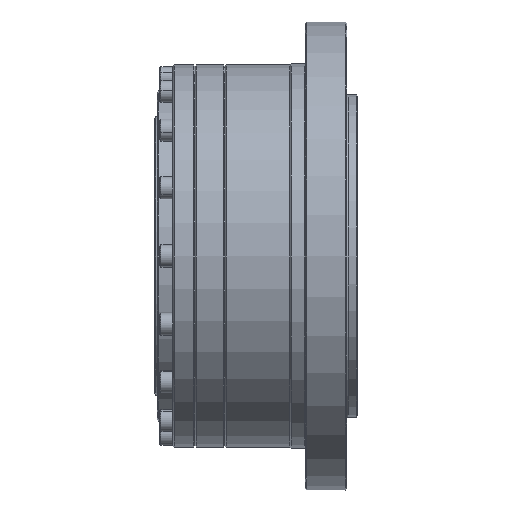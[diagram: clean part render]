
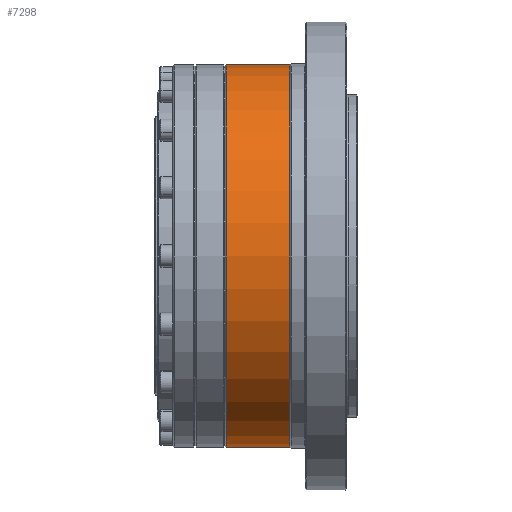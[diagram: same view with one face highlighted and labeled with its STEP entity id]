
A CAD part, front view. The second image highlights one B-rep face of the part: STEP entity #7298.
In plain terms, the highlighted cylindrical face has radius 73.5 mm (diameter 147 mm), a partial arc.
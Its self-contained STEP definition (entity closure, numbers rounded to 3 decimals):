
#171 = DIRECTION ( 'NONE',  ( 1., 0., 0. ) ) ;
#782 = LINE ( 'NONE', #15147, #18159 ) ;
#1699 = CARTESIAN_POINT ( 'NONE',  ( -30.095, 0.744, 253.5 ) ) ;
#2773 = CARTESIAN_POINT ( 'NONE',  ( -30.095, 0.744, 106.5 ) ) ;
#2976 = EDGE_LOOP ( 'NONE', ( #16588, #7048, #18321, #9394 ) ) ;
#4063 = EDGE_CURVE ( 'NONE', #20453, #21535, #13560, .T. ) ;
#4147 = CARTESIAN_POINT ( 'NONE',  ( 39.971, 0.744, 253.5 ) ) ;
#4237 = DIRECTION ( 'NONE',  ( 1., 0., 0. ) ) ;
#4670 = DIRECTION ( 'NONE',  ( 1., 0., 0. ) ) ;
#6906 = AXIS2_PLACEMENT_3D ( 'NONE', #8763, #171, #7447 ) ;
#7048 = ORIENTED_EDGE ( 'NONE', *, *, #4063, .T. ) ;
#7298 = ADVANCED_FACE ( 'NONE', ( #16900 ), #7970, .T. ) ;
#7447 = DIRECTION ( 'NONE',  ( 0., 0., -1. ) ) ;
#7683 = VECTOR ( 'NONE', #4670, 1000. ) ;
#7755 = EDGE_CURVE ( 'NONE', #20453, #13517, #16631, .T. ) ;
#7970 = CYLINDRICAL_SURFACE ( 'NONE', #6906, 73.5 ) ;
#8763 = CARTESIAN_POINT ( 'NONE',  ( 39.971, 0.744, 180. ) ) ;
#9394 = ORIENTED_EDGE ( 'NONE', *, *, #14214, .F. ) ;
#9513 = CIRCLE ( 'NONE', #11823, 73.5 ) ;
#9681 = VERTEX_POINT ( 'NONE', #13754 ) ;
#11823 = AXIS2_PLACEMENT_3D ( 'NONE', #14287, #4237, #16035 ) ;
#11866 = DIRECTION ( 'NONE',  ( 1., 0., 0. ) ) ;
#12763 = AXIS2_PLACEMENT_3D ( 'NONE', #20557, #14178, #17827 ) ;
#13517 = VERTEX_POINT ( 'NONE', #15895 ) ;
#13560 = CIRCLE ( 'NONE', #12763, 73.5 ) ;
#13754 = CARTESIAN_POINT ( 'NONE',  ( -5.595, 0.744, 106.5 ) ) ;
#14178 = DIRECTION ( 'NONE',  ( 1., 0., 0. ) ) ;
#14214 = EDGE_CURVE ( 'NONE', #13517, #9681, #9513, .T. ) ;
#14287 = CARTESIAN_POINT ( 'NONE',  ( -5.595, 0.744, 180. ) ) ;
#14621 = EDGE_CURVE ( 'NONE', #21535, #9681, #782, .T. ) ;
#15147 = CARTESIAN_POINT ( 'NONE',  ( 39.971, 0.744, 106.5 ) ) ;
#15895 = CARTESIAN_POINT ( 'NONE',  ( -5.595, 0.744, 253.5 ) ) ;
#16035 = DIRECTION ( 'NONE',  ( 0., 0., -1. ) ) ;
#16588 = ORIENTED_EDGE ( 'NONE', *, *, #7755, .F. ) ;
#16631 = LINE ( 'NONE', #4147, #7683 ) ;
#16900 = FACE_OUTER_BOUND ( 'NONE', #2976, .T. ) ;
#17827 = DIRECTION ( 'NONE',  ( 0., 0., -1. ) ) ;
#18159 = VECTOR ( 'NONE', #11866, 1000. ) ;
#18321 = ORIENTED_EDGE ( 'NONE', *, *, #14621, .T. ) ;
#20453 = VERTEX_POINT ( 'NONE', #1699 ) ;
#20557 = CARTESIAN_POINT ( 'NONE',  ( -30.095, 0.744, 180. ) ) ;
#21535 = VERTEX_POINT ( 'NONE', #2773 ) ;
